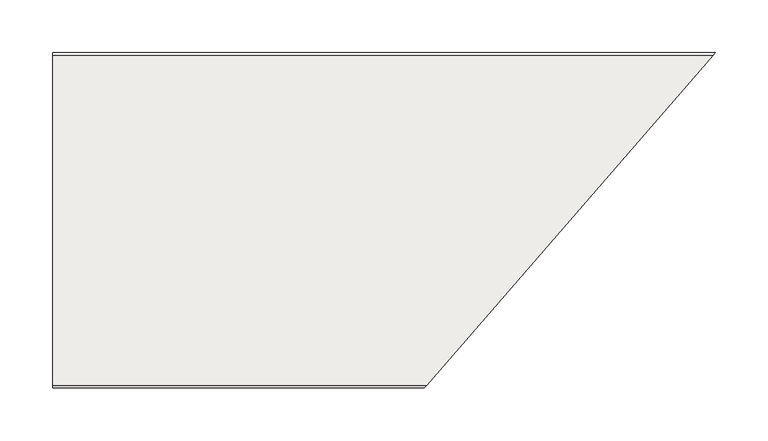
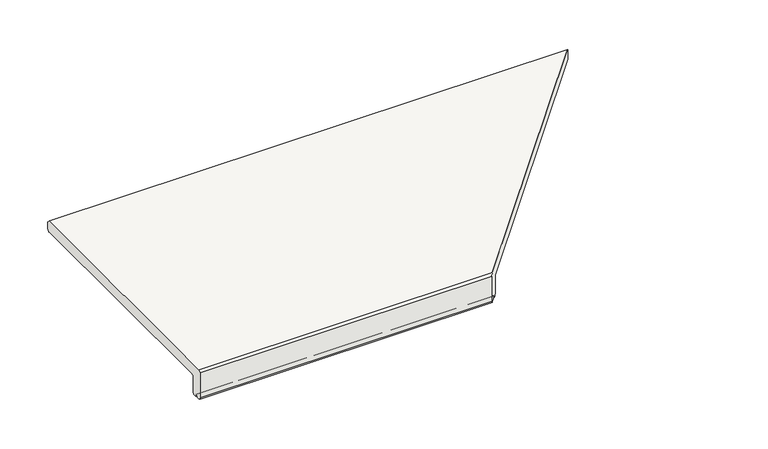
"""IFC4 building model written with IfcOpenShell, lengths in millimetres: slab geometry, ROSA GRES_L62 (corte-profundidad) : Pieza L62_Mistery_Grey_Anti-Slip."""

from ifc_helpers import new_model, si_unit, frame, origin, place, context, project, spatial, polyline, circle_curve, ellipse_curve, source, transform, mapped, element, save
from ifc_brep_helpers import plane_surface, cylinder_surface, revolved_surface, advanced_brep


def slab_68739a09(model_context):
    return source(origin(), model_context, "Body", "AdvancedBrep", [
        advanced_brep(
        [(0.0, 11.8865989, -24.0), (0.0, 9.4124925, -24.0), (0.0, 9.4124925, -23.0), (0.0, 5.422949, -23.0), (0.0, 2.5, -23.0), (0.0, 0.0, -20.5), (0.0, 0.0, 11.5), (0.0, 2.5, 14.0), (0.0, 314.5, 14.0), (0.0, 317.0, 11.5), (0.0, 317.0, 2.5268156), (0.0, 314.5178771, 0.0446927), (0.0, 16.4230659, 0.0446927), (0.0, 13.8100559, -2.5683173), (0.0, 13.8100559, -22.076543), (361.2693676, 11.8865989, -24.0), (359.1262294, 9.4124925, -24.0), (359.1262294, 9.4124925, -23.0), (355.6703784, 5.422949, -23.0), (353.1384405, 2.5, -23.0), (350.9728726, 0.0, -20.5), (350.9728726, 0.0, 11.5), (353.1384405, 2.5, 14.0), (623.4013185, 314.5, 14.0), (625.5668864, 317.0, 11.5), (625.5668864, 317.0, 2.5268156), (623.4168041, 314.5178771, 0.0446927), (365.1989786, 16.4230659, 0.0446927), (362.9355183, 13.8100559, -2.5683173), (362.9355183, 13.8100559, -22.076543)],
        [
            (0, 1),
            (1, 2),
            (2, 3, circle_curve(frame((0.0, 7.4177208, -23.0), z_axis=(1.0, 0.0, 0.0), x_axis=(0.0, 1.0, 0.0)), 1.9947717)),
            (3, 4),
            (4, 5, circle_curve(frame((0.0, 2.5, -20.5), z_axis=(-1.0, 0.0, 0.0), x_axis=(0.0, 1.0, 0.0)), 2.5)),
            (5, 6),
            (6, 7),
            (7, 8),
            (8, 9),
            (9, 10),
            (10, 11, circle_curve(frame((0.0, 314.5178771, 2.5268156), z_axis=(-1.0, 0.0, 0.0), x_axis=(0.0, 1.0, 0.0)), 2.4821229)),
            (11, 12),
            (12, 13, circle_curve(frame((0.0, 16.4230659, -2.5683173), z_axis=(1.0, 0.0, 0.0), x_axis=(0.0, 1.0, 0.0)), 2.6130101)),
            (13, 14),
            (14, 0, circle_curve(frame((0.0, 11.8865989, -22.076543), z_axis=(-1.0, 0.0, 0.0), x_axis=(0.0, 1.0, 0.0)), 1.923457)),
            (0, 15),
            (15, 16),
            (16, 1),
            (2, 17),
            (17, 18, ellipse_curve(frame((357.3983039, 7.4177208, -23.0), z_axis=(0.7558534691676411, -0.654740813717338, 0.0), x_axis=(0.6547408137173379, 0.7558534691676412, 0.0)), 2.6390985, 1.9947717)),
            (18, 3),
            (18, 19),
            (19, 4),
            (19, 20, ellipse_curve(frame((353.1384405, 2.5, -20.5), z_axis=(-0.7558534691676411, 0.654740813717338, 0.0), x_axis=(-0.6547408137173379, -0.7558534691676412, 0.0)), 3.3075194, 2.5)),
            (20, 5),
            (20, 21),
            (21, 6),
            (7, 22),
            (22, 23),
            (23, 8),
            (9, 24),
            (24, 25),
            (25, 10),
            (25, 26, ellipse_curve(frame((623.4168041, 314.5178771, 2.5268156), z_axis=(-0.7558534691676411, 0.654740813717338, 0.0), x_axis=(-0.6547408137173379, -0.7558534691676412, 0.0)), 3.2838678, 2.4821229)),
            (26, 11),
            (26, 27),
            (27, 12),
            (27, 28, ellipse_curve(frame((365.1989786, 16.4230659, -2.5683173), z_axis=(0.7558534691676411, -0.654740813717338, 0.0), x_axis=(0.6547408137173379, 0.7558534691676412, 0.0)), 3.4570326, 2.6130101)),
            (28, 13),
            (28, 29),
            (29, 14),
            (29, 15, ellipse_curve(frame((361.2693676, 11.8865989, -22.076543), z_axis=(-0.7558534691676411, 0.654740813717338, 0.0), x_axis=(-0.6547408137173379, -0.7558534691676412, 0.0)), 2.5447485, 1.923457)),
            (21, 22),
            (23, 24),
            (16, 17),
        ],
        [
            plane_surface(frame((0.0, 0.0, 0.0), z_axis=(-1.0, 0.0, 0.0), x_axis=(0.0, 0.0, 1.0))),
            plane_surface(frame((0.0, 11.8865989, -24.0), z_axis=(0.0, 0.0, -1.0), x_axis=(1.0, 0.0, 0.0))),
            revolved_surface(polyline([(359.1262294, 9.412492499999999, -23.0), (0.0, 9.412492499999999, -23.0)]), (0.0, 7.4177208, -23.0), (1.0, 0.0, 0.0)),
            plane_surface(frame((0.0, 5.422949, -23.0), z_axis=(0.0, 0.0, -1.0), x_axis=(1.0, 0.0, 0.0))),
            cylinder_surface(frame((0.0, 2.5, -20.5), z_axis=(-1.0, 0.0, 0.0), x_axis=(0.0, 1.0, 0.0)), 2.5),
            plane_surface(frame((0.0, 0.0, -20.5), z_axis=(0.0, -1.0, 0.0), x_axis=(1.0, 0.0, 0.0))),
            plane_surface(frame((0.0, 2.5, 14.0), z_axis=(0.0, 0.0, 1.0), x_axis=(1.0, 0.0, 0.0))),
            plane_surface(frame((0.0, 317.0, 11.5), z_axis=(0.0, 1.0, 0.0), x_axis=(1.0, 0.0, 0.0))),
            cylinder_surface(frame((0.0, 314.5178771, 2.5268156), z_axis=(-1.0, 0.0, 0.0), x_axis=(0.0, 1.0, 0.0)), 2.4821229),
            plane_surface(frame((0.0, 314.5178771, 0.0446927), z_axis=(0.0, 0.0, -1.0), x_axis=(1.0, 0.0, 0.0))),
            revolved_surface(polyline([(367.46243893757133, 19.036076, -2.5683173), (0.0, 19.036076, -2.5683173)]), (0.0, 16.4230659, -2.5683173), (1.0, 0.0, 0.0)),
            plane_surface(frame((0.0, 13.8100559, -2.5683173), z_axis=(0.0, 1.0, 0.0), x_axis=(1.0, 0.0, 0.0))),
            cylinder_surface(frame((0.0, 11.8865989, -22.076543), z_axis=(-1.0, 0.0, 0.0), x_axis=(0.0, 1.0, 0.0)), 1.923457),
            plane_surface(frame((0.0, 0.0, 11.5), z_axis=(0.0, -0.7071067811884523, 0.7071067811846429), x_axis=(1.0, 0.0, 0.0))),
            plane_surface(frame((0.0, 314.5, 14.0), z_axis=(0.0, 0.7071067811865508, 0.7071067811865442), x_axis=(1.0, 0.0, 0.0))),
            plane_surface(frame((0.0, 9.4124925, -24.0), z_axis=(0.0, -1.0, 0.0), x_axis=(1.0, 0.0, 0.0))),
            plane_surface(frame((626.0, 317.5, 86.9871832), z_axis=(0.7558534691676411, -0.654740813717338, 0.0), x_axis=(0.0, 0.0, -1.0))),
        ],
        [
            (0, [[1, 2, 3, 4, 5, 6, 7, 8, 9, 10, 11, 12, 13, 14, 15]]),
            (1, [[-1, 16, 17, 18]]),
            (2, [[-3, 19, 20, 21]]),
            (3, [[-4, -21, 22, 23]]),
            (4, [[-5, -23, 24, 25]]),
            (5, [[-6, -25, 26, 27]]),
            (6, [[-8, 28, 29, 30]]),
            (7, [[-10, 31, 32, 33]]),
            (8, [[-11, -33, 34, 35]]),
            (9, [[-12, -35, 36, 37]]),
            (10, [[-13, -37, 38, 39]]),
            (11, [[-14, -39, 40, 41]]),
            (12, [[-15, -41, 42, -16]]),
            (13, [[-7, -27, 43, -28]]),
            (14, [[-9, -30, 44, -31]]),
            (15, [[-2, -18, 45, -19]]),
            (16, [[-17, -42, -40, -38, -36, -34, -32, -44, -29, -43, -26, -24, -22, -20, -45]]),
        ],
    ),
    ])


if __name__ == "__main__":
    model = new_model("IFC4")
    model_context = context("Model", 3, world=origin())
    ifc_project = project(units=[si_unit("LENGTHUNIT", "METRE", prefix="MILLI")], contexts=[model_context])
    site = spatial("IfcSite", under=ifc_project)
    building = spatial("IfcBuilding", under=site)
    placement = place(None, origin())
    slab_shape = slab_68739a09(model_context)
    element("IfcSlab", 1, ObjectType="ROSA GRES_L62 (corte-profundidad) : Pieza L62_Mistery_Grey_Anti-Slip", at=placement, inside=building, context=model_context, shape_type="MappedRepresentation", body=[
        mapped(slab_shape, transform((0.0, 0.0, 0.0), x_axis=(1.0, 0.0, 0.0), y_axis=(0.0, 1.0, 0.0), z_axis=(0.0, 0.0, 1.0))),
    ])
    save(model, "model.ifc")
